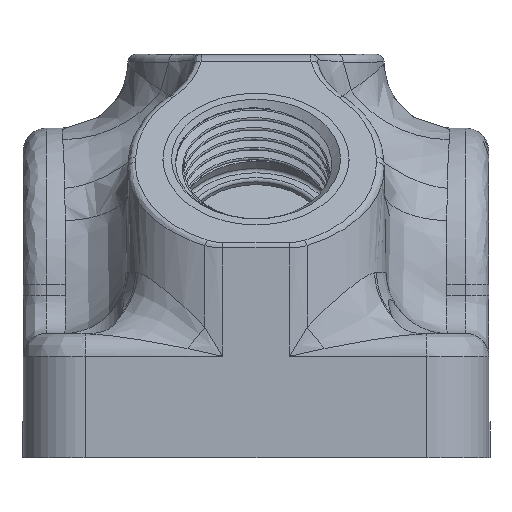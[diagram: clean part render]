
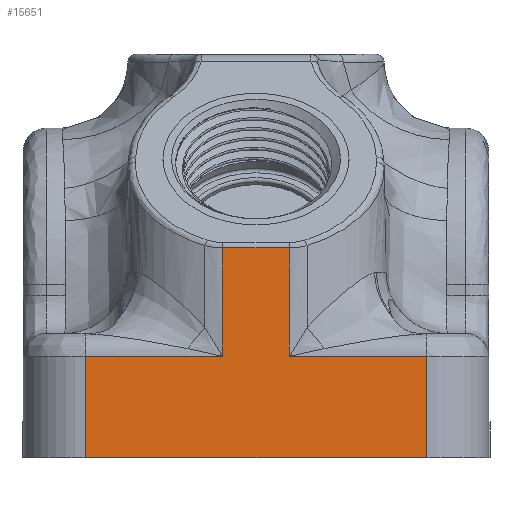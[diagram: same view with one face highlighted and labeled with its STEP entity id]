
A CAD part, left-side view. The second image highlights one B-rep face of the part: STEP entity #15651.
In plain terms, the highlighted planar face has unit normal (-1, 0, 0.018).
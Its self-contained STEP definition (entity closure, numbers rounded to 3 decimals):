
#270=CARTESIAN_POINT('',(-43.025,-22.025,0.));
#271=VERTEX_POINT('Vertex16',#270);
#279=CARTESIAN_POINT('',(-43.025,0.,0.));
#280=VERTEX_POINT('Vertex17',#279);
#281=CARTESIAN_POINT('',(-43.025,-11.013,0.));
#282=DIRECTION('',(0.,-1.,0.));
#283=VECTOR('',#282,1.);
#284=LINE('',#281,#283);
#285=EDGE_CURVE('Edge16',#280,#271,#284,.T.);
#287=CARTESIAN_POINT('',(-43.025,22.025,0.));
#288=VERTEX_POINT('Vertex18',#287);
#289=CARTESIAN_POINT('',(-43.025,11.013,0.));
#290=DIRECTION('',(0.,1.,0.));
#291=VECTOR('',#290,1.);
#292=LINE('',#289,#291);
#293=EDGE_CURVE('Edge17',#280,#288,#292,.T.);
#4548=CARTESIAN_POINT('',(-42.553,4.273,27.05)
);
#4549=VERTEX_POINT('Vertex139',#4548);
#8452=CARTESIAN_POINT('',(-42.797,4.309,13.052)
);
#8453=VERTEX_POINT('Vertex207',#8452);
#10983=CARTESIAN_POINT('',(-42.797,-4.309,13.052
));
#10984=VERTEX_POINT('Vertex223',#10983);
#12063=CARTESIAN_POINT('',(-42.746,4.302,16.));
#12064=VERTEX_POINT('Vertex230',#12063);
#12065=CARTESIAN_POINT('',(-42.771,4.306,14.526)
);
#12066=DIRECTION('',(-0.017,0.003,-1.
));
#12067=VECTOR('',#12066,1.);
#12068=LINE('',#12065,#12067);
#12069=EDGE_CURVE('Edge348',#12064,#8453,#12068,.T.);
#12071=CARTESIAN_POINT('',(-42.649,4.288,21.525)
);
#12072=DIRECTION('',(-0.017,0.003,-1.
));
#12073=VECTOR('',#12072,1.);
#12074=LINE('',#12071,#12073);
#12075=EDGE_CURVE('Edge349',#4549,#12064,#12074,.T.);
#12685=CARTESIAN_POINT('',(-42.553,-4.273,27.05
));
#12686=VERTEX_POINT('Vertex231',#12685);
#12687=CARTESIAN_POINT('',(-42.553,0.,
27.05));
#12688=DIRECTION('',(0.,-1.,0.));
#12689=VECTOR('',#12688,1.);
#12690=LINE('',#12687,#12689);
#12691=EDGE_CURVE('Edge351',#4549,#12686,#12690,.T.);
#14356=CARTESIAN_POINT('',(-42.797,22.025,13.052));
#14357=VERTEX_POINT('Vertex255',#14356);
#14714=CARTESIAN_POINT('',(-42.797,13.167,13.052)
);
#14715=DIRECTION('',(0.,-1.,0.));
#14716=VECTOR('',#14715,1.);
#14717=LINE('',#14714,#14716);
#14718=EDGE_CURVE('Edge407',#14357,#8453,#14717,.T.);
#14733=CARTESIAN_POINT('',(-42.911,22.025,6.526));
#14734=DIRECTION('',(0.017,0.,1.));
#14735=VECTOR('',#14734,1.);
#14736=LINE('',#14733,#14735);
#14737=EDGE_CURVE('Edge408',#288,#14357,#14736,.T.);
#14748=CARTESIAN_POINT('',(-42.797,-22.025,13.052));
#14749=VERTEX_POINT('Vertex258',#14748);
#14861=CARTESIAN_POINT('',(-42.746,-4.302,16.));
#14862=VERTEX_POINT('Vertex259',#14861);
#14863=CARTESIAN_POINT('',(-42.649,-4.288,21.525)
);
#14864=DIRECTION('',(-0.017,-0.003,-1.
));
#14865=VECTOR('',#14864,1.);
#14866=LINE('',#14863,#14865);
#14867=EDGE_CURVE('Edge411',#12686,#14862,#14866,.T.);
#14869=CARTESIAN_POINT('',(-42.771,-4.306,14.526
));
#14870=DIRECTION('',(-0.017,-0.003,
-1.));
#14871=VECTOR('',#14870,1.);
#14872=LINE('',#14869,#14871);
#14873=EDGE_CURVE('Edge412',#14862,#10984,#14872,.T.);
#15596=CARTESIAN_POINT('',(-42.797,-13.167,13.052
));
#15597=DIRECTION('',(0.,1.,0.));
#15598=VECTOR('',#15597,1.);
#15599=LINE('',#15596,#15598);
#15600=EDGE_CURVE('Edge414',#14749,#10984,#15599,.T.);
#15612=CARTESIAN_POINT('',(-42.911,-22.025,6.526));
#15613=DIRECTION('',(0.017,0.,1.));
#15614=VECTOR('',#15613,1.);
#15615=LINE('',#15612,#15614);
#15616=EDGE_CURVE('Edge415',#271,#14749,#15615,.T.);
#15633=ORIENTED_EDGE('Edgeuse805',*,*,#12691,.F.);
#15634=ORIENTED_EDGE('Edgeuse806',*,*,#12075,.T.);
#15635=ORIENTED_EDGE('Edgeuse807',*,*,#12069,.T.);
#15636=ORIENTED_EDGE('Edgeuse808',*,*,#14718,.F.);
#15637=ORIENTED_EDGE('Edgeuse809',*,*,#14737,.F.);
#15638=ORIENTED_EDGE('Edgeuse810',*,*,#293,.F.);
#15639=ORIENTED_EDGE('Edgeuse811',*,*,#285,.T.);
#15640=ORIENTED_EDGE('Edgeuse812',*,*,#15616,.T.);
#15641=ORIENTED_EDGE('Edgeuse813',*,*,#15600,.T.);
#15642=ORIENTED_EDGE('Edgeuse814',*,*,#14873,.F.);
#15643=ORIENTED_EDGE('Edgeuse815',*,*,#14867,.F.);
#15644=EDGE_LOOP('',(#15633,#15634,#15635,#15636,#15637,#15638,#15639,#15640,
#15641,#15642,#15643));
#15645=FACE_OUTER_BOUND('',#15644,.T.);
#15646=CARTESIAN_POINT('',(-42.792,-0.119,
13.368));
#15647=DIRECTION('',(-1.,0.,
0.017));
#15648=DIRECTION('',(0.017,-0.017,1.)
);
#15649=AXIS2_PLACEMENT_3D('',#15646,#15647,#15648);
#15650=PLANE('',#15649);
#15651=ADVANCED_FACE('Face167',(#15645),#15650,.T.);
